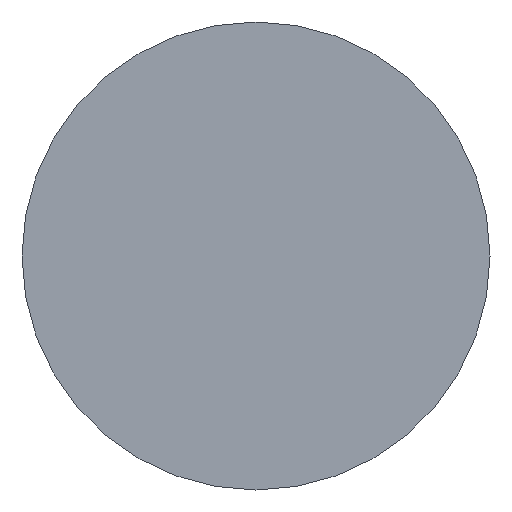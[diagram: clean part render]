
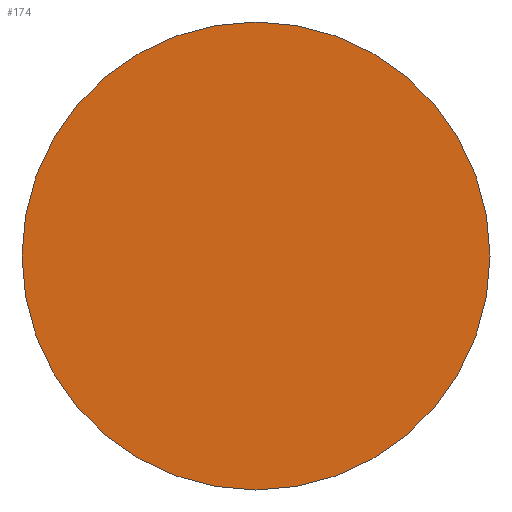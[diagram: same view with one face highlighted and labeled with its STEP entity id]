
A CAD part, front view. The second image highlights one B-rep face of the part: STEP entity #174.
In plain terms, the highlighted planar face has unit normal (0, -1, 0).
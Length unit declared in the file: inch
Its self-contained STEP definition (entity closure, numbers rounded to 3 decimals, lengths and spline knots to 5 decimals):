
#26=PLANE('',#207);
#31=FACE_OUTER_BOUND('',#41,.T.);
#41=EDGE_LOOP('',(#133,#134));
#55=CIRCLE('',#205,0.44);
#56=CIRCLE('',#206,0.44);
#77=VERTEX_POINT('',#314);
#78=VERTEX_POINT('',#315);
#98=EDGE_CURVE('',#77,#78,#55,.T.);
#99=EDGE_CURVE('',#78,#77,#56,.T.);
#133=ORIENTED_EDGE('',*,*,#98,.T.);
#134=ORIENTED_EDGE('',*,*,#99,.T.);
#174=ADVANCED_FACE('',(#31),#26,.T.);
#205=AXIS2_PLACEMENT_3D('',#316,#250,#251);
#206=AXIS2_PLACEMENT_3D('',#317,#252,#253);
#207=AXIS2_PLACEMENT_3D('',#319,#255,#256);
#250=DIRECTION('center_axis',(0.,-1.,0.));
#251=DIRECTION('ref_axis',(1.,0.,0.));
#252=DIRECTION('center_axis',(0.,-1.,0.));
#253=DIRECTION('ref_axis',(1.,0.,0.));
#255=DIRECTION('center_axis',(0.,-1.,0.));
#256=DIRECTION('ref_axis',(0.,0.,-1.));
#314=CARTESIAN_POINT('',(0.44,0.,0.));
#315=CARTESIAN_POINT('',(-0.44,0.,0.));
#316=CARTESIAN_POINT('Origin',(0.,0.,0.));
#317=CARTESIAN_POINT('Origin',(0.,0.,0.));
#319=CARTESIAN_POINT('Origin',(0.,0.,0.));
